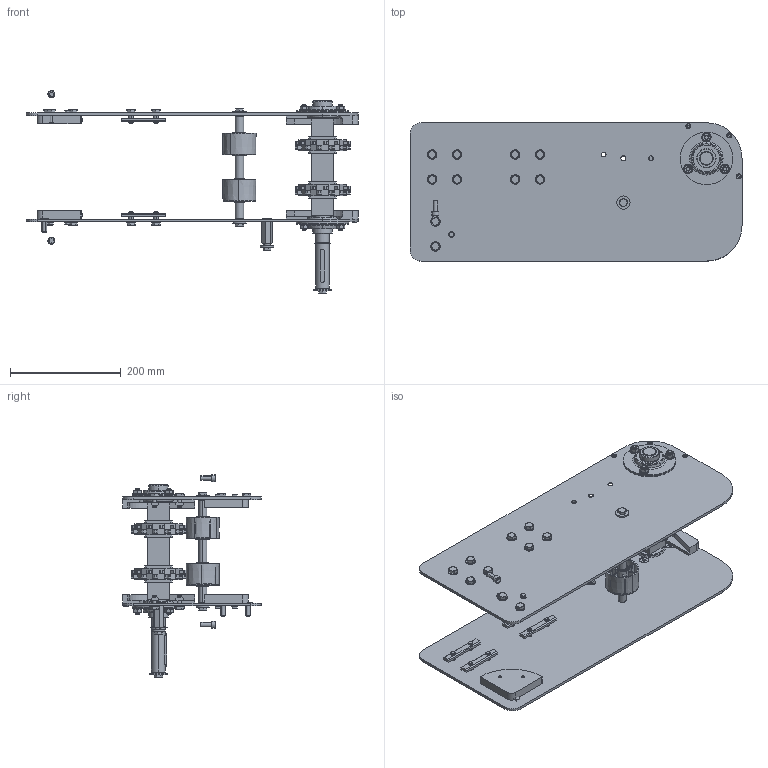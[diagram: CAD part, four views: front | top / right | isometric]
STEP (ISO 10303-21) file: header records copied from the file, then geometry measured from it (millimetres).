
FILE_DESCRIPTION (( 'STEP AP203' ), '1' );
FILE_NAME ('3000.152.149.STEP', '2018-03-09T16:24:45', ( '' ), ( '' ), 'SwSTEP 2.0', 'SolidWorks 2016', '' );
FILE_SCHEMA (( 'CONFIG_CONTROL_DESIGN' ));
Length unit declared in the file: millimetre
Products named in the file (30): circlip for shafts normal_din_Circlip DIN 471 - 16 x 1; RONDELLE FASCIA LARGA UNI 6593_8.4x24 UNI 6593; VITI TSEI UNI 5933 INOX_0412UNI5933A2; RONDELLE UNI 6592 INOX_5.3x10 UNI 6592 INOX; RONDELLE FASCIA LARGA UNI 6593 INOX_8.4x24 UNI 6593 INOX; Copia di Parte4^3000.152.149; RONDELLE FASCIA LARGA UNI 6593 INOX_8.4x32 UNI 6593 INOX; 084.802.045; 3000.000.006; circlip for shafts normal_din_Circlip DIN 471 - 25 x 1.2; 3000.000.002; 3000.152.001_Default<A macchina>; 3000.000.007; VITI TCEI UNI 5931 INOX_M8x20 UNI 5931 INOX; VITI TSEI UNI 5933 INOX_0820UNI5933A2; 084.302.016; 3000.000.005; VITI TE UNI 5739 INOX_M8x20 UNI 5739 INOX; CHIAVETTE_A 8x7x60 UNI 6604-69; 3000.152.002; RONDELLE UNI 6592 INOX_8.4x18 UNI 6592 INOX; DADI ESAGONALI NORMALI UNI 5588 INOX_M8 UNI 558 INOX; VITI TE UNI 5739_M8x16 UNI 5739; SBPF 205; 251-82205; 3000.000.001; M25S1240Q6; circlip for shafts normal_din_Circlip DIN 471 - 8 x 0.8; VITI TE UNI 5739 INOX_M5x20 UNI 5739 INOX; 3000.152.149
Assembly tree (118 placements, depth 2):
  3000.152.149
    3000.000.001
    3000.000.002
    3000.152.001_Default<A macchina>
    3000.152.002
    3000.000.005  x2
    3000.000.006
    3000.000.007
    084.302.016  x8
    CHIAVETTE_A 8x7x60 UNI 6604-69
    084.802.045
    Copia di Parte4^3000.152.149
    SBPF 205  x2
    circlip for shafts normal_din_Circlip DIN 471 - 8 x 0.8  x5
    M25S1240Q6  x2
    251-82205  x2
    VITI TSEI UNI 5933 INOX_0820UNI5933A2  x7
    RONDELLE UNI 6592 INOX_8.4x18 UNI 6592 INOX  x26
    DADI ESAGONALI NORMALI UNI 5588 INOX_M8 UNI 558 INOX  x6
    VITI TE UNI 5739 INOX_M8x20 UNI 5739 INOX  x23
    RONDELLE FASCIA LARGA UNI 6593 INOX_8.4x24 UNI 6593 INOX  x2
    RONDELLE FASCIA LARGA UNI 6593 INOX_8.4x32 UNI 6593 INOX
    VITI TCEI UNI 5931 INOX_M8x20 UNI 5931 INOX  x2
    RONDELLE FASCIA LARGA UNI 6593_8.4x24 UNI 6593
    VITI TE UNI 5739_M8x16 UNI 5739
    VITI TSEI UNI 5933 INOX_0412UNI5933A2  x6
    RONDELLE UNI 6592 INOX_5.3x10 UNI 6592 INOX  x4
    VITI TE UNI 5739 INOX_M5x20 UNI 5739 INOX  x4
    circlip for shafts normal_din_Circlip DIN 471 - 16 x 1  x4
    circlip for shafts normal_din_Circlip DIN 471 - 25 x 1.2
Bounding box: 600 x 250 x 366.72 mm (x, y, z)
Volume: 2607811.5 mm3; surface area: 1004032.5 mm2
Topology: 170 solids, 170 shells, 2700 faces, 6386 edges, 4083 vertices
Faces by surface type: plane 1360, cylinder 796, cone 468, bspline 36, torus 20, sphere 20
Entity records: 37047 total; most frequent: CARTESIAN_POINT 6450, DIRECTION 5464, ORIENTED_EDGE 4950, EDGE_CURVE 2475, AXIS2_PLACEMENT_3D 2028, VERTEX_POINT 1606, VECTOR 1408, LINE 1408
